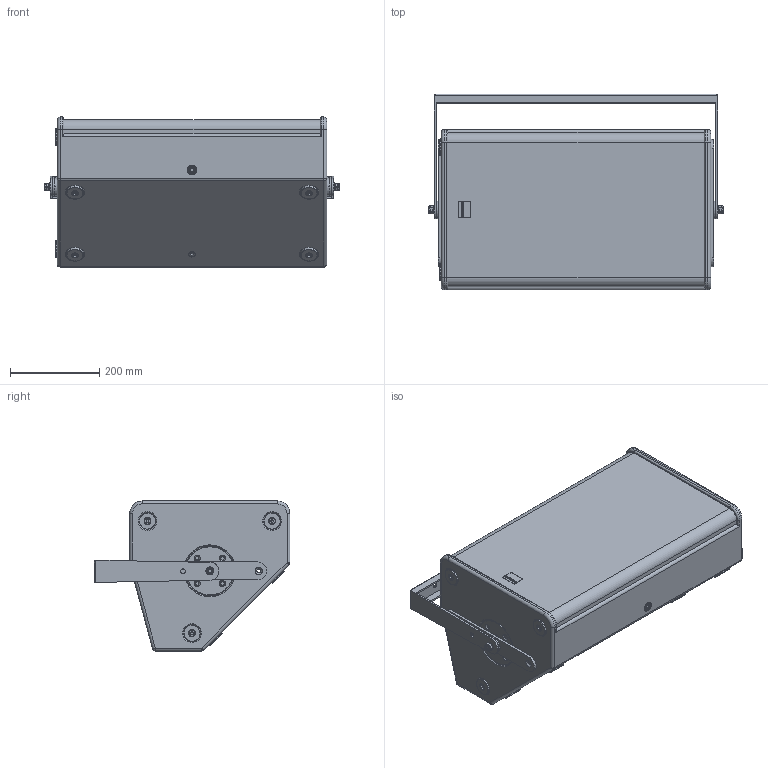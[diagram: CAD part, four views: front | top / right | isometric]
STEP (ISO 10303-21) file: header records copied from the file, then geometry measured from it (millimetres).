
FILE_DESCRIPTION (( 'STEP AP203' ), '1' );
FILE_NAME ('Seeburg_TSM12_Bracket_hor.STEP', '2012-10-17T12:16:15', ( 'Fabian' ), ( '' ), 'SwSTEP 2.0', 'SolidWorks 2009', '' );
FILE_SCHEMA (( 'CONFIG_CONTROL_DESIGN' ));
Length unit declared in the file: millimetre
Products named in the file (29): Imported88; Imported93; Imported94; Imported95; Imported101; Imported100; Imported106; Imported107; Imported113; Imported108; Seeburg_TSM12_Bracket_hor; TSM12_Bracket-hor; Imported87; Imported89; Imported90; Imported91; Imported92; Imported96; Imported97; Imported98; Imported99; Imported102; Imported103; Imported104; Imported105; Imported109; Imported110; Imported111; Imported112
Assembly tree (28 placements, depth 3):
  Seeburg_TSM12_Bracket_hor
    TSM12_Bracket-hor
      Imported102
      Imported107
      Imported109
      Imported113
      Imported103
      Imported104
      Imported90
      Imported106
      Imported93
      Imported97
      Imported87
      Imported98
      Imported112
      Imported94
      Imported101
      Imported108
      Imported111
      Imported91
      Imported96
      Imported99
      Imported88
      Imported95
      Imported89
      Imported105
      Imported110
      Imported92
      Imported100
Bounding box: 662.47 x 440 x 337 mm (x, y, z)
Volume: 16282530.2 mm3; surface area: 2094126.3 mm2
Topology: 35 solids, 35 shells, 855 faces, 1999 edges, 1238 vertices
Faces by surface type: cylinder 364, plane 245, torus 124, cone 76, sphere 44, bspline 2
Entity records: 33198 total; most frequent: CARTESIAN_POINT 10173, DIRECTION 4499, ORIENTED_EDGE 3954, EDGE_CURVE 1977, AXIS2_PLACEMENT_3D 1830, VERTEX_POINT 1226, EDGE_LOOP 983, CIRCLE 945
